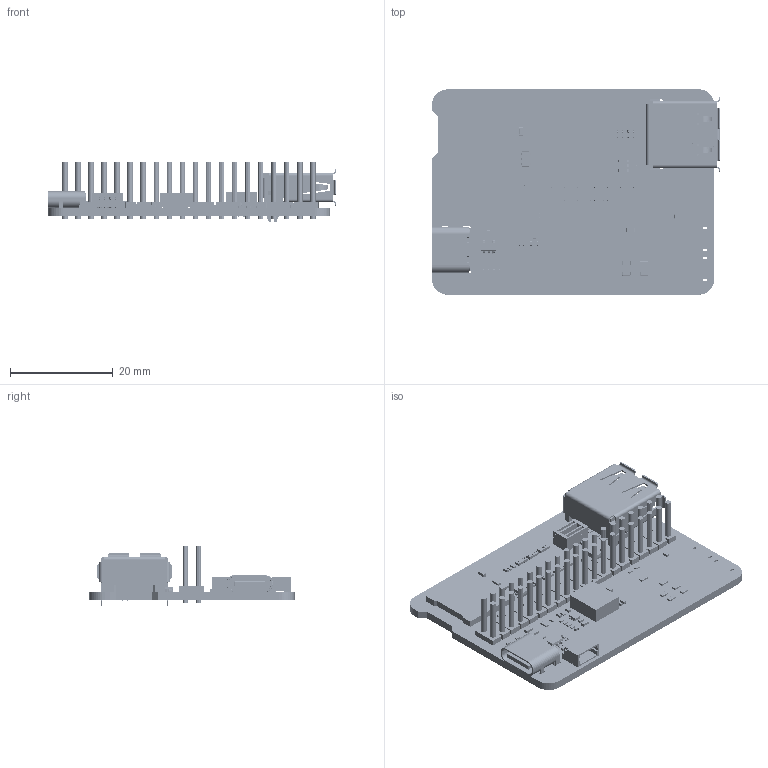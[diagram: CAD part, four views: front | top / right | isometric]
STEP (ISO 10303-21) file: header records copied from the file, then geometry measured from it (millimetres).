
FILE_DESCRIPTION(('Open CASCADE Model'),'2;1');
FILE_NAME('Open CASCADE Shape Model','2025-03-13T16:21:10',('Author'),( 'Open CASCADE'),'Open CASCADE STEP processor 6.5','Open CASCADE 6.5' ,'Unknown');
FILE_SCHEMA(('AUTOMOTIVE_DESIGN { 1 0 10303 214 1 1 1 1 }'));
Length unit declared in the file: millimetre
Products named in the file (159): PCB; Board; H4; 3D_Model; LPATTERN3_10__1_2_AF0; EXTRUDE7_1_2_AF0; LPATTERN3_11__1_2; LPATTERN3_7__1_2; LPATTERN3_2__1_2; LPATTERN3_4__1_2_AF0; LPATTERN3_6__1_2; LPATTERN3_8__1_2_AF0; EXTRUDE8_1_2; LPATTERN3_5__1_2_AF0; PIN_1_MARK_1_2_AF0; EXTRUDE9_1_2_AF0; LPATTERN3_3__1_2; LPATTERN3_9__1_2_AF0; LPATTERN3_1__1_2; 3DID40001_ASM; ID0001_ASM_1_1_2_3_ASM; LPATTERN3_10__AF0_1_1_2_3; EXTRUDE7_1_1_2_3_4; LPATTERN3_11__AF0_1_1_2_3; LPATTERN3_7__AF0_1_1_2_3; LPATTERN3_2__AF0_1_1_2_3; LPATTERN3_4__AF0_1_1_2_3; LPATTERN3_6__AF0_1_1_2_3; LPATTERN3_8__AF0_1_1_2_3; EXTRUDE8_AF0_1_1_2_3; LPATTERN3_5__AF0_1_1_2_3; PIN_1_MARK_AF0_1_1_2_3; EXTRUDE9_AF0_1_1_2_3; LPATTERN3_3__AF0_1_1_2_3; LPATTERN3_9__AF0_1_1_2_3; LPATTERN3_1__AF0_1_1_2_3; U11; SOT23-5-2; SOT23-5-14113_AF0_ASM; SOT23-5AND6_00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
Assembly tree (281 placements, depth 6):
  PCB
    Board
    H4
      3D_Model
        LPATTERN3_10__1_2_AF0
        EXTRUDE7_1_2_AF0
        LPATTERN3_11__1_2
        LPATTERN3_7__1_2
        LPATTERN3_2__1_2
        LPATTERN3_4__1_2_AF0
        LPATTERN3_6__1_2
        LPATTERN3_8__1_2_AF0
        EXTRUDE8_1_2
        LPATTERN3_5__1_2_AF0
        PIN_1_MARK_1_2_AF0
        EXTRUDE9_1_2_AF0
        LPATTERN3_3__1_2
        LPATTERN3_9__1_2_AF0
        LPATTERN3_1__1_2
        3DID40001_ASM
          ID0001_ASM_1_1_2_3_ASM
            LPATTERN3_10__AF0_1_1_2_3
            EXTRUDE7_1_1_2_3_4
            LPATTERN3_11__AF0_1_1_2_3
            LPATTERN3_7__AF0_1_1_2_3
            LPATTERN3_2__AF0_1_1_2_3
            LPATTERN3_4__AF0_1_1_2_3
            LPATTERN3_6__AF0_1_1_2_3
            LPATTERN3_8__AF0_1_1_2_3
            EXTRUDE8_AF0_1_1_2_3
            LPATTERN3_5__AF0_1_1_2_3
            PIN_1_MARK_AF0_1_1_2_3
            EXTRUDE9_AF0_1_1_2_3
            LPATTERN3_3__AF0_1_1_2_3
            LPATTERN3_9__AF0_1_1_2_3
            LPATTERN3_1__AF0_1_1_2_3
    U11
      SOT23-5-2
        SOT23-5-14113_AF0_ASM
          SOT23-5AND6_00  x5
          SOT23-5-14065_AF0
    R22
      User_Library-RES_0603-0201
    R21
      User_Library-RES_0603-0201
    R7
      User_Library-RES_0603-0201
    C24
      C_0402
        C_0402-4045_AF0_ASM
          C_0402-672_AF0_ASM
            _1_10001
            3_1_A
            2_100
    C23
      User_Library-0201(0603M)_Cap
    C22
      3D_Model
        LPATTERN3_10__1_2_AF0
        EXTRUDE7_1_2_AF0
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Bounding box: 56.23 x 40.02 x 11.8 mm (x, y, z)
Volume: 5247.2 mm3; surface area: 11051.6 mm2
Topology: 337 solids, 337 shells, 21473 faces, 56284 edges, 36821 vertices
Faces by surface type: plane 16195, extrusion 3067, cylinder 1374, bspline 487, sphere 305, torus 43, cone 2
Full cylindrical faces by diameter (mm): 0.762 x2, 0.889 x40
Entity records: 416177 total; most frequent: CARTESIAN_POINT 147474, DIRECTION 41889, VECTOR 30332, LINE 29650, ORIENTED_EDGE 27204, PCURVE 27204, DEFINITIONAL_REPRESENTATION 27204, EDGE_CURVE 13602
